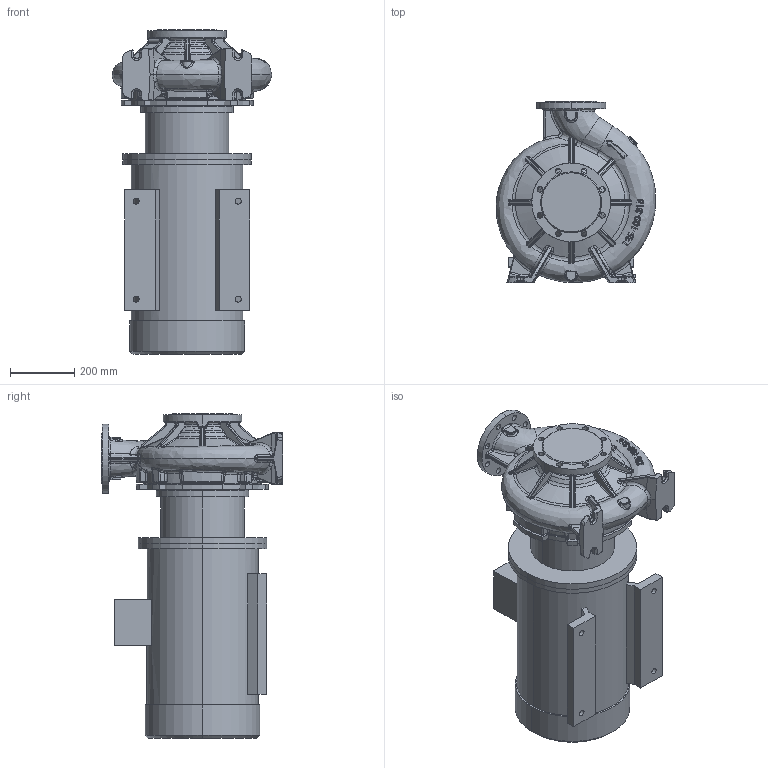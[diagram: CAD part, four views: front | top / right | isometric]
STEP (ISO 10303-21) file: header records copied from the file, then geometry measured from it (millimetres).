
FILE_DESCRIPTION (( 'STEP AP214' ), '1' );
FILE_NAME ('KRM 125-100-315-4-30.STEP', '2026-04-20T12:30:31', ( '' ), ( '' ), 'SwSTEP 2.0', 'SolidWorks 2016', '' );
FILE_SCHEMA (( 'AUTOMOTIVE_DESIGN' ));
Length unit declared in the file: millimetre
Products named in the file (1): KRM 125-100-315-4-30
Bounding box: 496.66 x 565 x 1010.8 mm (x, y, z)
Volume: 103274314 mm3; surface area: 2849754.6 mm2
Topology: 12 solids, 12 shells, 1418 faces, 3411 edges, 2018 vertices
Faces by surface type: bspline 657, cylinder 284, plane 269, torus 98, cone 86, sphere 24
Entity records: 109834 total; most frequent: CARTESIAN_POINT 66367, ORIENTED_EDGE 6742, DIRECTION 4493, EDGE_CURVE 3371, VERTEX_POINT 2018, AXIS2_PLACEMENT_3D 1872, EDGE_LOOP 1499, UNCERTAINTY_MEASURE_WITH_UNIT 1432
